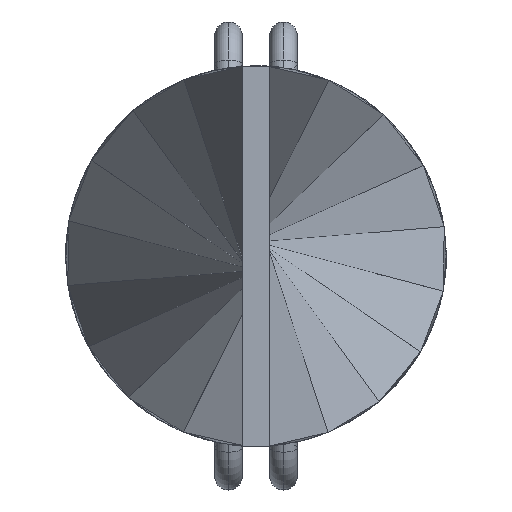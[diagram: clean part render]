
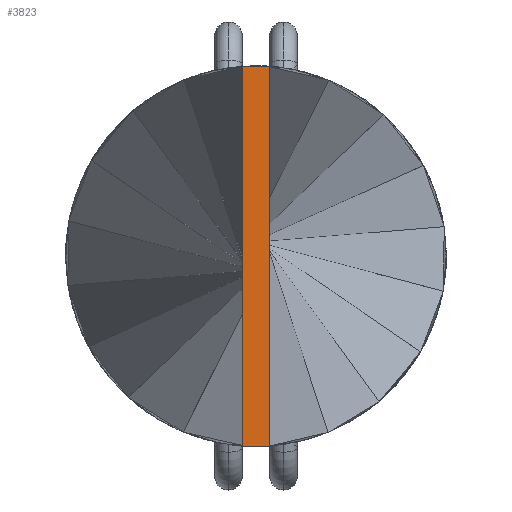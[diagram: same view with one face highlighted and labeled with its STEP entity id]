
A CAD part, left-side view. The second image highlights one B-rep face of the part: STEP entity #3823.
In plain terms, the highlighted planar face has unit normal (-1, 0, 0).
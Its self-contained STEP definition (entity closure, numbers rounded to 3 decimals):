
#10 = EDGE_CURVE ( 'NONE', #2825, #3621, #340, .T. ) ;
#67 = EDGE_CURVE ( 'NONE', #540, #3642, #310, .T. ) ;
#82 = AXIS2_PLACEMENT_3D ( 'NONE', #989, #956, #948 ) ;
#95 = EDGE_CURVE ( 'NONE', #3642, #2825, #296, .T. ) ;
#204 = LINE ( 'NONE', #3387, #209 ) ;
#209 = VECTOR ( 'NONE', #2217, 1000. ) ;
#244 = DIRECTION ( 'NONE',  ( 0., 1., 0. ) ) ;
#247 = CARTESIAN_POINT ( 'NONE',  ( -200., -0.5, 6.9 ) ) ;
#253 = CARTESIAN_POINT ( 'NONE',  ( -200., 0.5, -6.9 ) ) ;
#268 = VECTOR ( 'NONE', #308, 1000. ) ;
#289 = DIRECTION ( 'NONE',  ( 0., -1., 0. ) ) ;
#292 = VECTOR ( 'NONE', #289, 1000. ) ;
#295 = CARTESIAN_POINT ( 'NONE',  ( -200., -0.5, -6.9 ) ) ;
#296 = LINE ( 'NONE', #295, #268 ) ;
#308 = DIRECTION ( 'NONE',  ( 0., 0., 1. ) ) ;
#310 = LINE ( 'NONE', #253, #292 ) ;
#336 = VECTOR ( 'NONE', #244, 1000. ) ;
#340 = LINE ( 'NONE', #247, #336 ) ;
#414 = CARTESIAN_POINT ( 'NONE',  ( -200., 0.5, -6.9 ) ) ;
#522 = ORIENTED_EDGE ( 'NONE', *, *, #95, .T. ) ;
#540 = VERTEX_POINT ( 'NONE', #414 ) ;
#568 = ORIENTED_EDGE ( 'NONE', *, *, #10, .T. ) ;
#618 = ORIENTED_EDGE ( 'NONE', *, *, #67, .T. ) ;
#686 = ORIENTED_EDGE ( 'NONE', *, *, #1075, .T. ) ;
#948 = DIRECTION ( 'NONE',  ( 0., 0., 1. ) ) ;
#956 = DIRECTION ( 'NONE',  ( -1., 0., 0. ) ) ;
#982 = PLANE ( 'NONE',  #82 ) ;
#989 = CARTESIAN_POINT ( 'NONE',  ( -200., 0., 0. ) ) ;
#1075 = EDGE_CURVE ( 'NONE', #3621, #540, #204, .T. ) ;
#1813 = EDGE_LOOP ( 'NONE', ( #568, #686, #618, #522 ) ) ;
#2217 = DIRECTION ( 'NONE',  ( 0., 0., -1. ) ) ;
#2825 = VERTEX_POINT ( 'NONE', #3141 ) ;
#3141 = CARTESIAN_POINT ( 'NONE',  ( -200., -0.5, 6.9 ) ) ;
#3387 = CARTESIAN_POINT ( 'NONE',  ( -200., 0.5, 6.9 ) ) ;
#3621 = VERTEX_POINT ( 'NONE', #3769 ) ;
#3623 = CARTESIAN_POINT ( 'NONE',  ( -200., -0.5, -6.9 ) ) ;
#3642 = VERTEX_POINT ( 'NONE', #3623 ) ;
#3769 = CARTESIAN_POINT ( 'NONE',  ( -200., 0.5, 6.9 ) ) ;
#3819 = FACE_OUTER_BOUND ( 'NONE', #1813, .T. ) ;
#3823 = ADVANCED_FACE ( 'NONE', ( #3819 ), #982, .T. ) ;
